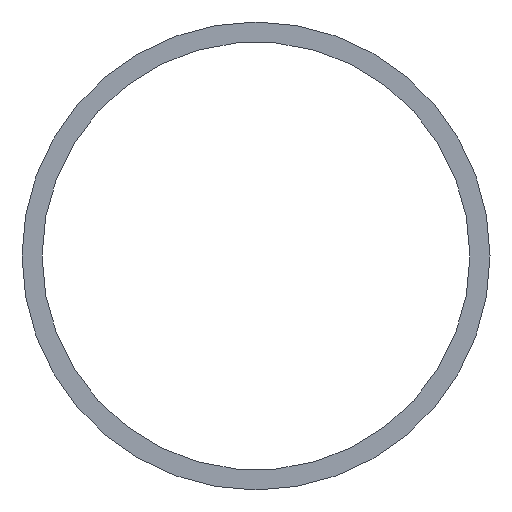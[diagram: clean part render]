
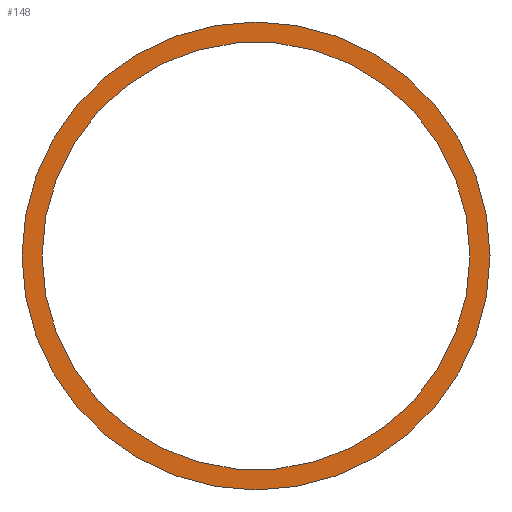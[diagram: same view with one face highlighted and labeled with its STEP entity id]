
A CAD part, left-side view. The second image highlights one B-rep face of the part: STEP entity #148.
In plain terms, the highlighted planar face has unit normal (-1, 0, 0).
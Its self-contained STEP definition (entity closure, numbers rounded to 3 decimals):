
#4 = FACE_OUTER_BOUND ( 'NONE', #239, .T. ) ;
#7 = DIRECTION ( 'NONE',  ( 0., 1., 0. ) ) ;
#26 = FACE_BOUND ( 'NONE', #133, .T. ) ;
#27 = DIRECTION ( 'NONE',  ( 0., 1., 0. ) ) ;
#30 = DIRECTION ( 'NONE',  ( -1., 0., 0. ) ) ;
#39 = AXIS2_PLACEMENT_3D ( 'NONE', #69, #244, #27 ) ;
#44 = AXIS2_PLACEMENT_3D ( 'NONE', #169, #108, #66 ) ;
#53 = PLANE ( 'NONE',  #44 ) ;
#61 = ORIENTED_EDGE ( 'NONE', *, *, #93, .F. ) ;
#64 = CARTESIAN_POINT ( 'NONE',  ( -3000., 14., 0. ) ) ;
#66 = DIRECTION ( 'NONE',  ( 0., 1., 0. ) ) ;
#69 = CARTESIAN_POINT ( 'NONE',  ( -3000., 0., 0. ) ) ;
#76 = DIRECTION ( 'NONE',  ( -1., 0., 0. ) ) ;
#84 = CARTESIAN_POINT ( 'NONE',  ( -3000., 0., 0. ) ) ;
#89 = AXIS2_PLACEMENT_3D ( 'NONE', #234, #76, #160 ) ;
#91 = CIRCLE ( 'NONE', #245, 12.8 ) ;
#93 = EDGE_CURVE ( 'NONE', #218, #130, #134, .T. ) ;
#108 = DIRECTION ( 'NONE',  ( 1., 0., 0. ) ) ;
#112 = CARTESIAN_POINT ( 'NONE',  ( -3000., -12.8, 0. ) ) ;
#117 = EDGE_CURVE ( 'NONE', #130, #218, #213, .T. ) ;
#122 = ORIENTED_EDGE ( 'NONE', *, *, #277, .F. ) ;
#130 = VERTEX_POINT ( 'NONE', #248 ) ;
#133 = EDGE_LOOP ( 'NONE', ( #122, #225 ) ) ;
#134 = CIRCLE ( 'NONE', #39, 14. ) ;
#137 = EDGE_CURVE ( 'NONE', #269, #147, #91, .T. ) ;
#146 = ORIENTED_EDGE ( 'NONE', *, *, #117, .F. ) ;
#147 = VERTEX_POINT ( 'NONE', #293 ) ;
#148 = ADVANCED_FACE ( 'NONE', ( #26, #4 ), #53, .F. ) ;
#160 = DIRECTION ( 'NONE',  ( 0., 1., 0. ) ) ;
#169 = CARTESIAN_POINT ( 'NONE',  ( -3000., 0., 0. ) ) ;
#186 = AXIS2_PLACEMENT_3D ( 'NONE', #291, #246, #7 ) ;
#200 = DIRECTION ( 'NONE',  ( 0., 1., 0. ) ) ;
#213 = CIRCLE ( 'NONE', #186, 14. ) ;
#218 = VERTEX_POINT ( 'NONE', #64 ) ;
#225 = ORIENTED_EDGE ( 'NONE', *, *, #137, .F. ) ;
#234 = CARTESIAN_POINT ( 'NONE',  ( -3000., 0., 0. ) ) ;
#239 = EDGE_LOOP ( 'NONE', ( #61, #146 ) ) ;
#242 = CIRCLE ( 'NONE', #89, 12.8 ) ;
#244 = DIRECTION ( 'NONE',  ( 1., 0., 0. ) ) ;
#245 = AXIS2_PLACEMENT_3D ( 'NONE', #84, #30, #200 ) ;
#246 = DIRECTION ( 'NONE',  ( 1., 0., 0. ) ) ;
#248 = CARTESIAN_POINT ( 'NONE',  ( -3000., -14., 0. ) ) ;
#269 = VERTEX_POINT ( 'NONE', #112 ) ;
#277 = EDGE_CURVE ( 'NONE', #147, #269, #242, .T. ) ;
#291 = CARTESIAN_POINT ( 'NONE',  ( -3000., 0., 0. ) ) ;
#293 = CARTESIAN_POINT ( 'NONE',  ( -3000., 12.8, 0. ) ) ;
